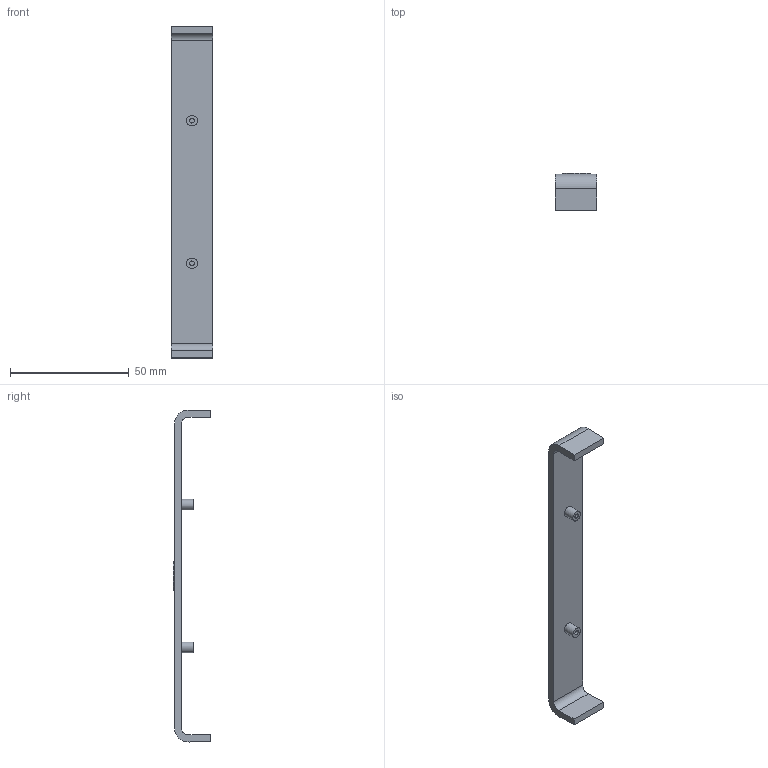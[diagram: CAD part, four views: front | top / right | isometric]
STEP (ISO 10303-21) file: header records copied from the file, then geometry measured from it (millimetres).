
FILE_DESCRIPTION (( 'STEP AP214' ), '1' );
FILE_NAME ('L19207.step', '2024-12-03T16:23:54', ( '' ), ( '' ), 'SwSTEP 2.0', 'SolidWorks 2023', '' );
FILE_SCHEMA (( 'AUTOMOTIVE_DESIGN' ));
Length unit declared in the file: millimetre
Products named in the file (1): L19207
Bounding box: 17.4 x 15.8 x 139.57 mm (x, y, z)
Volume: 8547.5 mm3; surface area: 6864.3 mm2
Topology: 1 solids, 1 shells, 24 faces, 53 edges, 36 vertices
Faces by surface type: plane 15, cylinder 9
Full cylindrical faces by diameter (mm): 2 x2, 4.5 x2, 12 x1
Entity records: 651 total; most frequent: DIRECTION 114, CARTESIAN_POINT 105, ORIENTED_EDGE 92, EDGE_CURVE 46, AXIS2_PLACEMENT_3D 43, VERTEX_POINT 34, EDGE_LOOP 34, FACE_OUTER_BOUND 29
